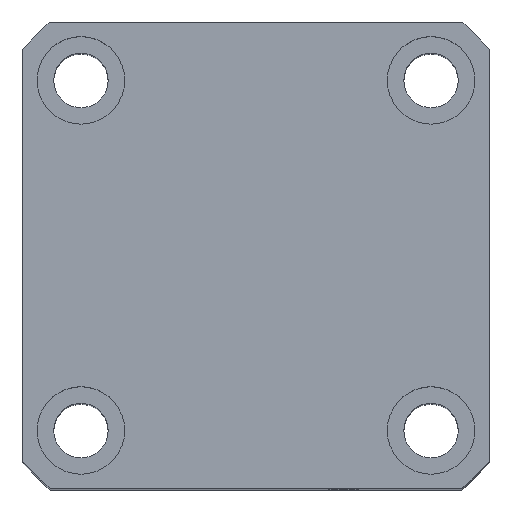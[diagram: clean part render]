
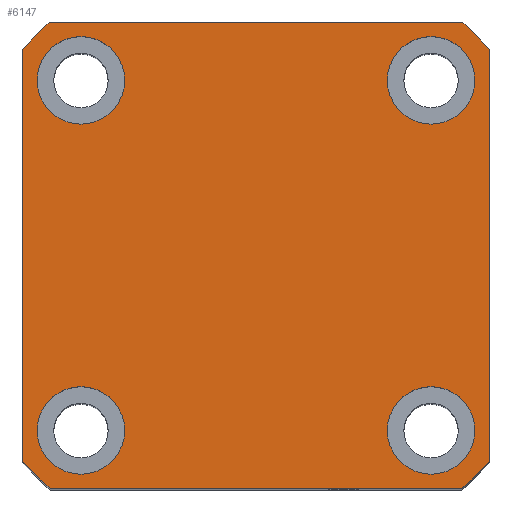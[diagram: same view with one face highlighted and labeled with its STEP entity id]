
A CAD part, top view. The second image highlights one B-rep face of the part: STEP entity #6147.
In plain terms, the highlighted planar face has unit normal (0, 0, 1).
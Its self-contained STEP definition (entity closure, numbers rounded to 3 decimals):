
#3016=LINE('',#16875,#3916);
#3020=LINE('',#17153,#3920);
#3024=LINE('',#17162,#3924);
#3028=LINE('',#17171,#3928);
#3916=VECTOR('',#12821,1.);
#3920=VECTOR('',#12939,1.);
#3924=VECTOR('',#12945,1.);
#3928=VECTOR('',#12951,1.);
#4942=PLANE('',#12392);
#6147=ADVANCED_FACE('',(#6668,#6669,#6670,#6671,#6672),#4942,.T.);
#6668=FACE_BOUND('',#6849,.T.);
#6669=FACE_BOUND('',#6850,.T.);
#6670=FACE_BOUND('',#6851,.T.);
#6671=FACE_BOUND('',#6852,.T.);
#6672=FACE_BOUND('',#6853,.T.);
#6849=EDGE_LOOP('',(#7498));
#6850=EDGE_LOOP('',(#7499));
#6851=EDGE_LOOP('',(#7500));
#6852=EDGE_LOOP('',(#7501));
#6853=EDGE_LOOP('',(#7502,#7503,#7504,#7505,#7506,#7507,#7508,#7509));
#7498=ORIENTED_EDGE('',*,*,#10963,.F.);
#7499=ORIENTED_EDGE('',*,*,#10965,.F.);
#7500=ORIENTED_EDGE('',*,*,#10967,.F.);
#7501=ORIENTED_EDGE('',*,*,#10969,.F.);
#7502=ORIENTED_EDGE('',*,*,#10940,.T.);
#7503=ORIENTED_EDGE('',*,*,#10995,.T.);
#7504=ORIENTED_EDGE('',*,*,#10984,.T.);
#7505=ORIENTED_EDGE('',*,*,#10996,.T.);
#7506=ORIENTED_EDGE('',*,*,#10988,.T.);
#7507=ORIENTED_EDGE('',*,*,#10997,.T.);
#7508=ORIENTED_EDGE('',*,*,#10992,.T.);
#7509=ORIENTED_EDGE('',*,*,#10998,.T.);
#10017=VERTEX_POINT('',#16873);
#10019=VERTEX_POINT('',#16876);
#10041=VERTEX_POINT('',#17102);
#10043=VERTEX_POINT('',#17107);
#10045=VERTEX_POINT('',#17112);
#10047=VERTEX_POINT('',#17117);
#10060=VERTEX_POINT('',#17151);
#10062=VERTEX_POINT('',#17154);
#10064=VERTEX_POINT('',#17160);
#10066=VERTEX_POINT('',#17163);
#10068=VERTEX_POINT('',#17169);
#10070=VERTEX_POINT('',#17172);
#10940=EDGE_CURVE('',#10019,#10017,#3016,.T.);
#10963=EDGE_CURVE('',#10041,#10041,#12241,.T.);
#10965=EDGE_CURVE('',#10043,#10043,#12243,.T.);
#10967=EDGE_CURVE('',#10045,#10045,#12245,.T.);
#10969=EDGE_CURVE('',#10047,#10047,#12247,.T.);
#10984=EDGE_CURVE('',#10062,#10060,#3020,.T.);
#10988=EDGE_CURVE('',#10066,#10064,#3024,.T.);
#10992=EDGE_CURVE('',#10070,#10068,#3028,.T.);
#10995=EDGE_CURVE('',#10017,#10062,#12261,.T.);
#10996=EDGE_CURVE('',#10060,#10066,#12262,.T.);
#10997=EDGE_CURVE('',#10064,#10070,#12263,.T.);
#10998=EDGE_CURVE('',#10068,#10019,#12264,.T.);
#12241=CIRCLE('',#12355,4.5);
#12243=CIRCLE('',#12358,4.5);
#12245=CIRCLE('',#12361,4.5);
#12247=CIRCLE('',#12364,4.5);
#12261=CIRCLE('',#12388,32.);
#12262=CIRCLE('',#12389,32.);
#12263=CIRCLE('',#12390,32.);
#12264=CIRCLE('',#12391,32.);
#12355=AXIS2_PLACEMENT_3D('',#17101,#12878,#12879);
#12358=AXIS2_PLACEMENT_3D('',#17106,#12884,#12885);
#12361=AXIS2_PLACEMENT_3D('',#17111,#12890,#12891);
#12364=AXIS2_PLACEMENT_3D('',#17116,#12896,#12897);
#12388=AXIS2_PLACEMENT_3D('',#17177,#12956,#12957);
#12389=AXIS2_PLACEMENT_3D('',#17178,#12958,#12959);
#12390=AXIS2_PLACEMENT_3D('',#17179,#12960,#12961);
#12391=AXIS2_PLACEMENT_3D('',#17180,#12962,#12963);
#12392=AXIS2_PLACEMENT_3D('',#17181,#12964,#12965);
#12821=DIRECTION('',(-1.,0.,0.));
#12878=DIRECTION('',(0.,0.,1.));
#12879=DIRECTION('',(0.,1.,0.));
#12884=DIRECTION('',(0.,0.,1.));
#12885=DIRECTION('',(0.,1.,0.));
#12890=DIRECTION('',(0.,0.,1.));
#12891=DIRECTION('',(0.,1.,0.));
#12896=DIRECTION('',(0.,0.,1.));
#12897=DIRECTION('',(0.,1.,0.));
#12939=DIRECTION('',(0.,-1.,0.));
#12945=DIRECTION('',(1.,0.,0.));
#12951=DIRECTION('',(0.,1.,0.));
#12956=DIRECTION('',(0.,0.,1.));
#12957=DIRECTION('',(0.,1.,0.));
#12958=DIRECTION('',(0.,0.,1.));
#12959=DIRECTION('',(0.,1.,0.));
#12960=DIRECTION('',(0.,0.,1.));
#12961=DIRECTION('',(0.,1.,0.));
#12962=DIRECTION('',(0.,0.,1.));
#12963=DIRECTION('',(0.,1.,0.));
#12964=DIRECTION('',(0.,0.,1.));
#12965=DIRECTION('',(0.,-1.,0.));
#16873=CARTESIAN_POINT('',(-100.804,28.601,98.805));
#16875=CARTESIAN_POINT('',(-103.638,28.601,98.805));
#16876=CARTESIAN_POINT('',(-58.472,28.601,98.805));
#17101=CARTESIAN_POINT('',(-61.638,22.601,98.805));
#17102=CARTESIAN_POINT('',(-61.638,27.101,98.805));
#17106=CARTESIAN_POINT('',(-61.638,-13.399,98.805));
#17107=CARTESIAN_POINT('',(-61.638,-8.899,98.805));
#17111=CARTESIAN_POINT('',(-97.638,22.601,98.805));
#17112=CARTESIAN_POINT('',(-97.638,27.101,98.805));
#17116=CARTESIAN_POINT('',(-97.638,-13.399,98.805));
#17117=CARTESIAN_POINT('',(-97.638,-8.899,98.805));
#17151=CARTESIAN_POINT('',(-103.638,-16.565,98.805));
#17153=CARTESIAN_POINT('',(-103.638,-19.399,98.805));
#17154=CARTESIAN_POINT('',(-103.638,25.767,98.805));
#17160=CARTESIAN_POINT('',(-58.472,-19.399,98.805));
#17162=CARTESIAN_POINT('',(-103.638,-19.399,98.805));
#17163=CARTESIAN_POINT('',(-100.804,-19.399,98.805));
#17169=CARTESIAN_POINT('',(-55.638,25.767,98.805));
#17171=CARTESIAN_POINT('',(-55.638,-19.399,98.805));
#17172=CARTESIAN_POINT('',(-55.638,-16.565,98.805));
#17177=CARTESIAN_POINT('',(-79.638,4.601,98.805));
#17178=CARTESIAN_POINT('',(-79.638,4.601,98.805));
#17179=CARTESIAN_POINT('',(-79.638,4.601,98.805));
#17180=CARTESIAN_POINT('',(-79.638,4.601,98.805));
#17181=CARTESIAN_POINT('',(-79.638,4.601,98.805));
